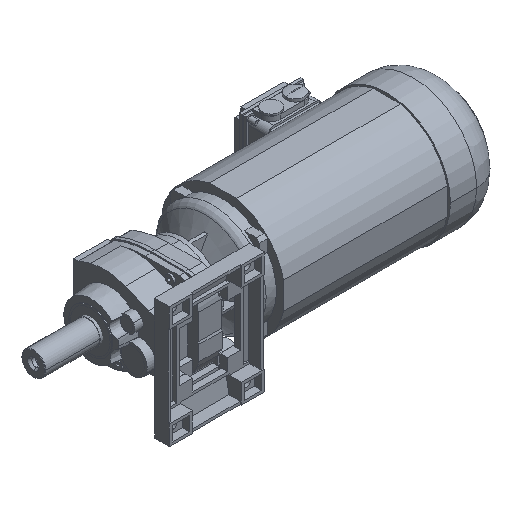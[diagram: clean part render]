
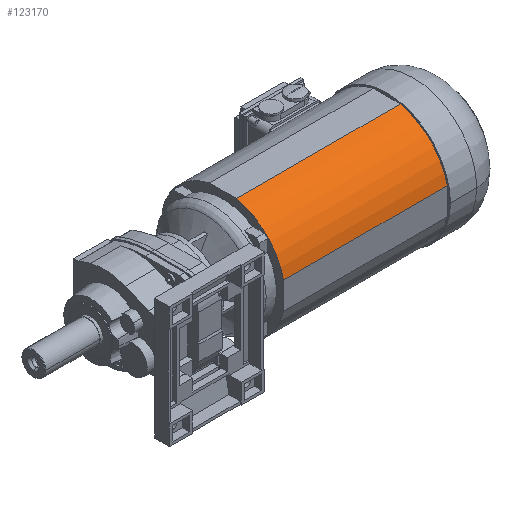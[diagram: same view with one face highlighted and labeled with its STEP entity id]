
A CAD part, isometric view. The second image highlights one B-rep face of the part: STEP entity #123170.
In plain terms, the highlighted cylindrical face has radius 125.5 mm (diameter 251 mm), a partial arc.
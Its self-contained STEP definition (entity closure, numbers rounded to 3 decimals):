
#120970=CARTESIAN_POINT('',(0.,-122.5,27.276));
#120980=VERTEX_POINT('',#120970);
#121010=CARTESIAN_POINT('',(168.5,-122.5,27.276));
#121020=DIRECTION('',(1.,0.,0.));
#121030=VECTOR('',#121020,1.);
#121040=LINE('',#121010,#121030);
#121050=CARTESIAN_POINT('',(331.,-122.5,27.276));
#121060=VERTEX_POINT('',#121050);
#121070=EDGE_CURVE('',#120980,#121060,#121040,.T.);
#122590=CARTESIAN_POINT('',(168.5,-27.276,122.5));
#122600=DIRECTION('',(1.,0.,0.));
#122610=VECTOR('',#122600,1.);
#122620=LINE('',#122590,#122610);
#122630=CARTESIAN_POINT('',(0.,-27.276,122.5));
#122640=VERTEX_POINT('',#122630);
#122650=CARTESIAN_POINT('',(331.,-27.276,122.5));
#122660=VERTEX_POINT('',#122650);
#122670=EDGE_CURVE('',#122640,#122660,#122620,.T.);
#122940=CARTESIAN_POINT('',(168.5,0.,0.));
#122950=DIRECTION('',(-1.,0.,0.));
#122960=DIRECTION('',(0.,-1.,0.));
#122970=AXIS2_PLACEMENT_3D('',#122940,#122950,#122960);
#122980=CYLINDRICAL_SURFACE('',#122970,125.5);
#122990=ORIENTED_EDGE('',*,*,#121070,.T.);
#123000=CARTESIAN_POINT('',(0.,0.,0.));
#123010=DIRECTION('',(-1.,0.,0.));
#123020=DIRECTION('',(0.,-1.,0.));
#123030=AXIS2_PLACEMENT_3D('',#123000,#123010,#123020);
#123040=CIRCLE('',#123030,125.5);
#123050=EDGE_CURVE('',#120980,#122640,#123040,.T.);
#123060=ORIENTED_EDGE('',*,*,#123050,.F.);
#123070=ORIENTED_EDGE('',*,*,#122670,.F.);
#123080=CARTESIAN_POINT('',(331.,0.,0.));
#123090=DIRECTION('',(-1.,0.,0.));
#123100=DIRECTION('',(0.,-1.,0.));
#123110=AXIS2_PLACEMENT_3D('',#123080,#123090,#123100);
#123120=CIRCLE('',#123110,125.5);
#123130=EDGE_CURVE('',#121060,#122660,#123120,.T.);
#123140=ORIENTED_EDGE('',*,*,#123130,.T.);
#123150=EDGE_LOOP('',(#123140,#123070,#123060,#122990));
#123160=FACE_OUTER_BOUND('',#123150,.T.);
#123170=ADVANCED_FACE('',(#123160),#122980,.T.);
